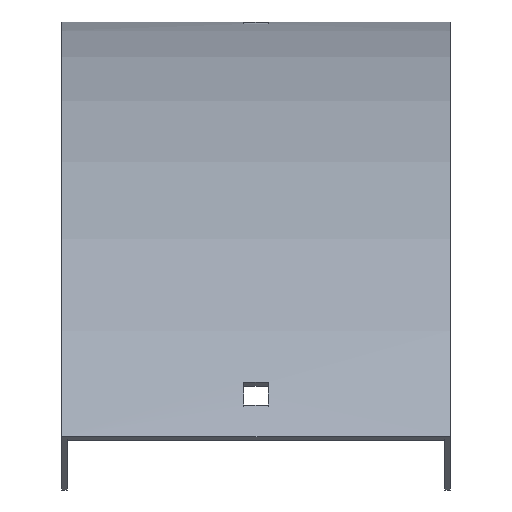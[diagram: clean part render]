
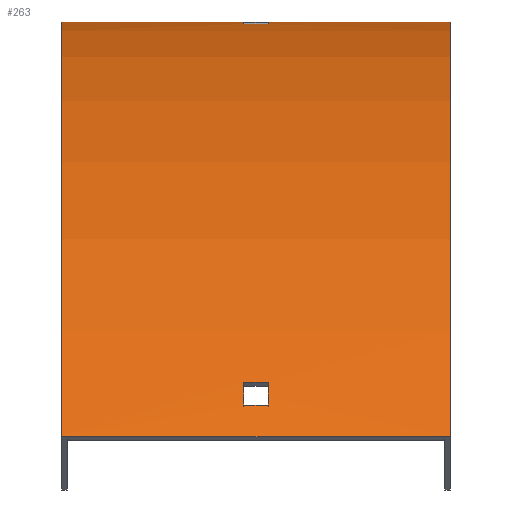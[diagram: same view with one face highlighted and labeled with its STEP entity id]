
A CAD part, top view. The second image highlights one B-rep face of the part: STEP entity #263.
In plain terms, the highlighted cylindrical face has radius 376.5 mm (diameter 753 mm), a partial arc.
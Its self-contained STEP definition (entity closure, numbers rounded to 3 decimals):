
#3 = DIRECTION ( 'NONE',  ( 0., 0., 1. ) ) ;
#5 = VERTEX_POINT ( 'NONE', #181 ) ;
#9 = CARTESIAN_POINT ( 'NONE',  ( 51.5, 0., 0. ) ) ;
#13 = LINE ( 'NONE', #414, #16 ) ;
#16 = VECTOR ( 'NONE', #366, 1000. ) ;
#29 = DIRECTION ( 'NONE',  ( -1., 0., 0. ) ) ;
#45 = DIRECTION ( 'NONE',  ( 0., 0., -1. ) ) ;
#48 = ORIENTED_EDGE ( 'NONE', *, *, #359, .F. ) ;
#53 = CYLINDRICAL_SURFACE ( 'NONE', #333, 376.5 ) ;
#56 = CARTESIAN_POINT ( 'NONE',  ( -51.5, 0., 0. ) ) ;
#73 = AXIS2_PLACEMENT_3D ( 'NONE', #541, #131, #500 ) ;
#79 = ORIENTED_EDGE ( 'NONE', *, *, #598, .T. ) ;
#85 = DIRECTION ( 'NONE',  ( 1., 0., 0. ) ) ;
#87 = VERTEX_POINT ( 'NONE', #386 ) ;
#90 = CIRCLE ( 'NONE', #165, 376.5 ) ;
#92 = VERTEX_POINT ( 'NONE', #56 ) ;
#95 = DIRECTION ( 'NONE',  ( -1., 0., 0. ) ) ;
#100 = EDGE_LOOP ( 'NONE', ( #476, #218, #105, #79 ) ) ;
#104 = CIRCLE ( 'NONE', #286, 376.5 ) ;
#105 = ORIENTED_EDGE ( 'NONE', *, *, #126, .T. ) ;
#107 = CARTESIAN_POINT ( 'NONE',  ( -3.25, -101.924, 257.605 ) ) ;
#120 = CARTESIAN_POINT ( 'NONE',  ( 3.25, -95.839, 250.962 ) ) ;
#122 = EDGE_CURVE ( 'NONE', #92, #408, #545, .T. ) ;
#124 = ORIENTED_EDGE ( 'NONE', *, *, #155, .F. ) ;
#126 = EDGE_CURVE ( 'NONE', #145, #5, #270, .T. ) ;
#129 = CARTESIAN_POINT ( 'NONE',  ( 51.5, -101.924, 257.605 ) ) ;
#131 = DIRECTION ( 'NONE',  ( 1., 0., 0. ) ) ;
#136 = CARTESIAN_POINT ( 'NONE',  ( -3.25, -95.839, 250.962 ) ) ;
#138 = CARTESIAN_POINT ( 'NONE',  ( -3.25, -0.586, 21. ) ) ;
#140 = LINE ( 'NONE', #507, #434 ) ;
#145 = VERTEX_POINT ( 'NONE', #407 ) ;
#155 = EDGE_CURVE ( 'NONE', #325, #334, #279, .T. ) ;
#160 = CARTESIAN_POINT ( 'NONE',  ( -3.25, -376.5, 0. ) ) ;
#165 = AXIS2_PLACEMENT_3D ( 'NONE', #209, #445, #200 ) ;
#181 = CARTESIAN_POINT ( 'NONE',  ( 3.25, -0.191, 12. ) ) ;
#182 = CARTESIAN_POINT ( 'NONE',  ( 51.5, -376.5, 0. ) ) ;
#196 = DIRECTION ( 'NONE',  ( -1., 0., 0. ) ) ;
#200 = DIRECTION ( 'NONE',  ( 0., 0., -1. ) ) ;
#207 = CARTESIAN_POINT ( 'NONE',  ( 3.25, -101.924, 257.605 ) ) ;
#208 = EDGE_CURVE ( 'NONE', #285, #145, #422, .T. ) ;
#209 = CARTESIAN_POINT ( 'NONE',  ( 3.25, -376.5, 0. ) ) ;
#218 = ORIENTED_EDGE ( 'NONE', *, *, #208, .T. ) ;
#234 = VERTEX_POINT ( 'NONE', #513 ) ;
#236 = AXIS2_PLACEMENT_3D ( 'NONE', #596, #29, #542 ) ;
#240 = ORIENTED_EDGE ( 'NONE', *, *, #436, .F. ) ;
#242 = DIRECTION ( 'NONE',  ( -1., 0., 0. ) ) ;
#263 = ADVANCED_FACE ( 'NONE', ( #377, #563, #371 ), #53, .T. ) ;
#270 = LINE ( 'NONE', #362, #413 ) ;
#279 = CIRCLE ( 'NONE', #236, 376.5 ) ;
#281 = DIRECTION ( 'NONE',  ( 1., 0., 0. ) ) ;
#282 = LINE ( 'NONE', #9, #597 ) ;
#285 = VERTEX_POINT ( 'NONE', #138 ) ;
#286 = AXIS2_PLACEMENT_3D ( 'NONE', #160, #338, #582 ) ;
#294 = ORIENTED_EDGE ( 'NONE', *, *, #535, .F. ) ;
#297 = AXIS2_PLACEMENT_3D ( 'NONE', #560, #425, #3 ) ;
#301 = EDGE_CURVE ( 'NONE', #234, #87, #316, .T. ) ;
#316 = CIRCLE ( 'NONE', #579, 376.5 ) ;
#325 = VERTEX_POINT ( 'NONE', #207 ) ;
#330 = ORIENTED_EDGE ( 'NONE', *, *, #122, .T. ) ;
#333 = AXIS2_PLACEMENT_3D ( 'NONE', #550, #242, #430 ) ;
#334 = VERTEX_POINT ( 'NONE', #120 ) ;
#338 = DIRECTION ( 'NONE',  ( 1., 0., 0. ) ) ;
#341 = ORIENTED_EDGE ( 'NONE', *, *, #344, .F. ) ;
#344 = EDGE_CURVE ( 'NONE', #515, #484, #104, .T. ) ;
#347 = LINE ( 'NONE', #482, #537 ) ;
#359 = EDGE_CURVE ( 'NONE', #334, #515, #347, .T. ) ;
#360 = LINE ( 'NONE', #129, #504 ) ;
#362 = CARTESIAN_POINT ( 'NONE',  ( 51.5, -0.191, 12. ) ) ;
#366 = DIRECTION ( 'NONE',  ( -1., 0., 0. ) ) ;
#371 = FACE_BOUND ( 'NONE', #435, .T. ) ;
#377 = FACE_OUTER_BOUND ( 'NONE', #415, .T. ) ;
#386 = CARTESIAN_POINT ( 'NONE',  ( 51.5, -110.274, 266.226 ) ) ;
#407 = CARTESIAN_POINT ( 'NONE',  ( -3.25, -0.191, 12. ) ) ;
#408 = VERTEX_POINT ( 'NONE', #601 ) ;
#413 = VECTOR ( 'NONE', #446, 1000. ) ;
#414 = CARTESIAN_POINT ( 'NONE',  ( 51.5, -0.586, 21. ) ) ;
#415 = EDGE_LOOP ( 'NONE', ( #330, #294, #467, #420 ) ) ;
#420 = ORIENTED_EDGE ( 'NONE', *, *, #458, .T. ) ;
#422 = CIRCLE ( 'NONE', #297, 376.5 ) ;
#425 = DIRECTION ( 'NONE',  ( -1., 0., 0. ) ) ;
#428 = CARTESIAN_POINT ( 'NONE',  ( 3.25, -0.586, 21. ) ) ;
#430 = DIRECTION ( 'NONE',  ( 0., 0., 1. ) ) ;
#434 = VECTOR ( 'NONE', #95, 1000. ) ;
#435 = EDGE_LOOP ( 'NONE', ( #341, #48, #124, #240 ) ) ;
#436 = EDGE_CURVE ( 'NONE', #484, #325, #360, .T. ) ;
#445 = DIRECTION ( 'NONE',  ( 1., 0., 0. ) ) ;
#446 = DIRECTION ( 'NONE',  ( 1., 0., 0. ) ) ;
#454 = VERTEX_POINT ( 'NONE', #428 ) ;
#458 = EDGE_CURVE ( 'NONE', #234, #92, #282, .T. ) ;
#467 = ORIENTED_EDGE ( 'NONE', *, *, #301, .F. ) ;
#476 = ORIENTED_EDGE ( 'NONE', *, *, #511, .T. ) ;
#482 = CARTESIAN_POINT ( 'NONE',  ( 51.5, -95.839, 250.962 ) ) ;
#484 = VERTEX_POINT ( 'NONE', #107 ) ;
#487 = DIRECTION ( 'NONE',  ( -1., 0., 0. ) ) ;
#500 = DIRECTION ( 'NONE',  ( 0., 0., -1. ) ) ;
#504 = VECTOR ( 'NONE', #85, 1000. ) ;
#507 = CARTESIAN_POINT ( 'NONE',  ( 51.5, -110.274, 266.226 ) ) ;
#511 = EDGE_CURVE ( 'NONE', #454, #285, #13, .T. ) ;
#513 = CARTESIAN_POINT ( 'NONE',  ( 51.5, 0., 0. ) ) ;
#515 = VERTEX_POINT ( 'NONE', #136 ) ;
#535 = EDGE_CURVE ( 'NONE', #87, #408, #140, .T. ) ;
#537 = VECTOR ( 'NONE', #487, 1000. ) ;
#541 = CARTESIAN_POINT ( 'NONE',  ( -51.5, -376.5, 0. ) ) ;
#542 = DIRECTION ( 'NONE',  ( 0., 0., 1. ) ) ;
#545 = CIRCLE ( 'NONE', #73, 376.5 ) ;
#550 = CARTESIAN_POINT ( 'NONE',  ( 51.5, -376.5, 0. ) ) ;
#560 = CARTESIAN_POINT ( 'NONE',  ( -3.25, -376.5, 0. ) ) ;
#563 = FACE_BOUND ( 'NONE', #100, .T. ) ;
#579 = AXIS2_PLACEMENT_3D ( 'NONE', #182, #281, #45 ) ;
#582 = DIRECTION ( 'NONE',  ( 0., 0., -1. ) ) ;
#596 = CARTESIAN_POINT ( 'NONE',  ( 3.25, -376.5, 0. ) ) ;
#597 = VECTOR ( 'NONE', #196, 1000. ) ;
#598 = EDGE_CURVE ( 'NONE', #5, #454, #90, .T. ) ;
#601 = CARTESIAN_POINT ( 'NONE',  ( -51.5, -110.274, 266.226 ) ) ;
